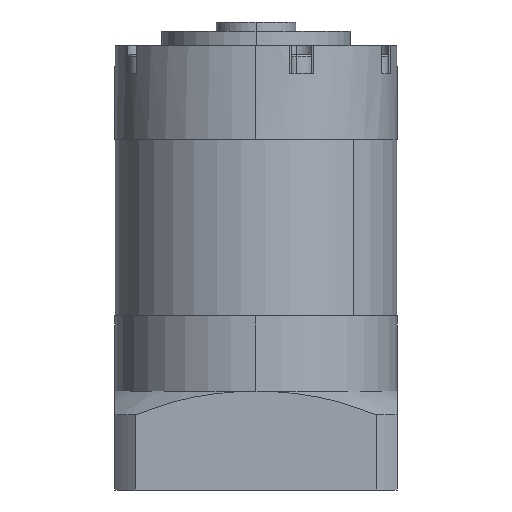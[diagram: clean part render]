
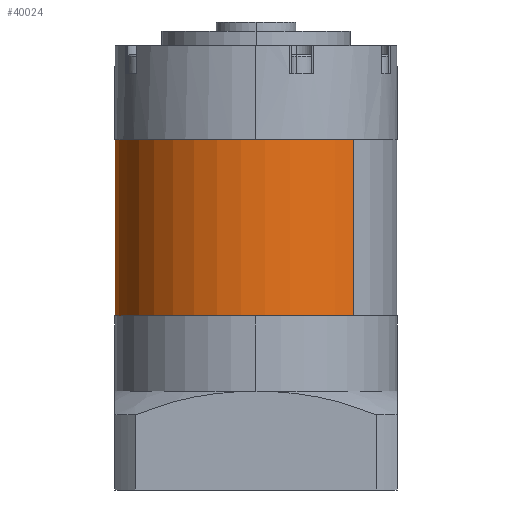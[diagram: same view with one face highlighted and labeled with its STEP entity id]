
A CAD part, left-side view. The second image highlights one B-rep face of the part: STEP entity #40024.
In plain terms, the highlighted cylindrical face has radius 30 mm (diameter 60 mm), a partial arc.
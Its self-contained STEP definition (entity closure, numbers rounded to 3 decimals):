
#1233 = FACE_OUTER_BOUND ( 'NONE', #24931, .T. ) ;
#1763 = ORIENTED_EDGE ( 'NONE', *, *, #4286, .F. ) ;
#3157 = DIRECTION ( 'NONE',  ( 0., 1., 0. ) ) ;
#4014 = AXIS2_PLACEMENT_3D ( 'NONE', #36629, #33427, #17664 ) ;
#4286 = EDGE_CURVE ( 'NONE', #15511, #28303, #6203, .T. ) ;
#5663 = AXIS2_PLACEMENT_3D ( 'NONE', #15045, #37199, #18229 ) ;
#6002 = CARTESIAN_POINT ( 'NONE',  ( 0., -30., -18.75 ) ) ;
#6203 = LINE ( 'NONE', #11355, #23096 ) ;
#10654 = CARTESIAN_POINT ( 'NONE',  ( 0., 30., 18.75 ) ) ;
#11355 = CARTESIAN_POINT ( 'NONE',  ( 0., -30., 18.75 ) ) ;
#11485 = ORIENTED_EDGE ( 'NONE', *, *, #23128, .T. ) ;
#12512 = CARTESIAN_POINT ( 'NONE',  ( 0., 30., -18.75 ) ) ;
#12887 = ORIENTED_EDGE ( 'NONE', *, *, #28199, .T. ) ;
#15045 = CARTESIAN_POINT ( 'NONE',  ( 0., 0., -18.75 ) ) ;
#15396 = VERTEX_POINT ( 'NONE', #10654 ) ;
#15511 = VERTEX_POINT ( 'NONE', #33229 ) ;
#17664 = DIRECTION ( 'NONE',  ( 0., 1., 0. ) ) ;
#18229 = DIRECTION ( 'NONE',  ( 0., 1., 0. ) ) ;
#18706 = CIRCLE ( 'NONE', #5663, 30. ) ;
#22164 = DIRECTION ( 'NONE',  ( 0., 0., -1. ) ) ;
#23096 = VECTOR ( 'NONE', #27037, 1000. ) ;
#23128 = EDGE_CURVE ( 'NONE', #15511, #15396, #29278, .T. ) ;
#24906 = AXIS2_PLACEMENT_3D ( 'NONE', #41149, #22164, #3157 ) ;
#24931 = EDGE_LOOP ( 'NONE', ( #1763, #11485, #32253, #12887 ) ) ;
#25527 = CYLINDRICAL_SURFACE ( 'NONE', #4014, 30. ) ;
#25687 = DIRECTION ( 'NONE',  ( 0., 0., -1. ) ) ;
#27037 = DIRECTION ( 'NONE',  ( 0., 0., -1. ) ) ;
#28199 = EDGE_CURVE ( 'NONE', #28350, #28303, #18706, .T. ) ;
#28303 = VERTEX_POINT ( 'NONE', #6002 ) ;
#28350 = VERTEX_POINT ( 'NONE', #12512 ) ;
#28726 = CARTESIAN_POINT ( 'NONE',  ( 0., 30., 18.75 ) ) ;
#29278 = CIRCLE ( 'NONE', #24906, 30. ) ;
#30932 = VECTOR ( 'NONE', #25687, 1000. ) ;
#32052 = EDGE_CURVE ( 'NONE', #15396, #28350, #39422, .T. ) ;
#32253 = ORIENTED_EDGE ( 'NONE', *, *, #32052, .T. ) ;
#33229 = CARTESIAN_POINT ( 'NONE',  ( 0., -30., 18.75 ) ) ;
#33427 = DIRECTION ( 'NONE',  ( 0., 0., -1. ) ) ;
#36629 = CARTESIAN_POINT ( 'NONE',  ( 0., 0., 18.75 ) ) ;
#37199 = DIRECTION ( 'NONE',  ( 0., 0., 1. ) ) ;
#39422 = LINE ( 'NONE', #28726, #30932 ) ;
#40024 = ADVANCED_FACE ( 'NONE', ( #1233 ), #25527, .T. ) ;
#41149 = CARTESIAN_POINT ( 'NONE',  ( 0., 0., 18.75 ) ) ;
